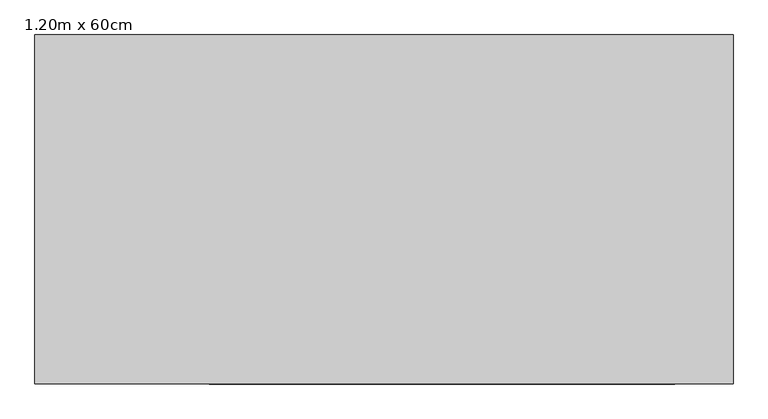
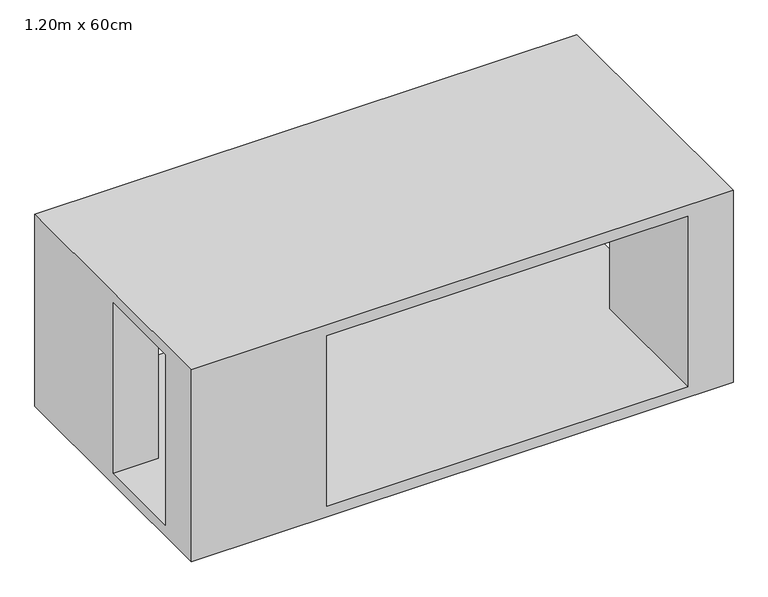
"""IFC4 building model written with IfcOpenShell, lengths in millimetres: furniture geometry, MESA DE CENTRO MODELO CARACAS : 1.20m x 60cm."""

from ifc_helpers import new_model, si_unit, origin, place, context, project, spatial, faceted_brep, source, transform, mapped, element, save


def furniture_1_20m_x_60cm_cab01552(model_context):
    return source(origin(), model_context, "Body", "Brep", [
        faceted_brep([(600.0, 0.0, 424.6), (600.0, 0.0, 25.4), (500.0, 0.0, 25.4), (500.0, 0.0, 424.6), (500.0, -300.0, 25.4), (500.0, -300.0, 424.6), (600.0, -300.0, 450.0), (-600.0, -300.0, 450.0), (-600.0, -300.0, 0.0), (600.0, -300.0, 0.0), (-300.0, -300.0, 25.4), (-300.0, -300.0, 424.6), (600.0, 300.0, 450.0), (600.0, 300.0, 0.0), (600.0, 200.0, 424.6), (600.0, 200.0, 25.4), (-300.0, -200.0, 424.6), (-300.0, -200.0, 25.4), (-600.0, -200.0, 25.4), (-600.0, -200.0, 424.6), (-600.0, 300.0, 450.0), (-600.0, 300.0, 0.0), (-600.0, 0.0, 25.4), (-600.0, 0.0, 424.6), (-500.0, 300.0, 424.6), (-500.0, 300.0, 25.4), (300.0, 300.0, 25.4), (300.0, 300.0, 424.6), (-500.0, 0.0, 25.4), (-500.0, 0.0, 424.6), (300.0, 200.0, 25.4), (300.0, 200.0, 424.6)], [[[0, 1, 2, 3]], [[3, 2, 4, 5]], [[6, 7, 8, 9], [5, 4, 10, 11]], [[12, 6, 9, 13], [1, 0, 14, 15]], [[16, 17, 18, 19]], [[8, 7, 20, 21], [19, 18, 22, 23]], [[17, 16, 11, 10]], [[21, 20, 12, 13], [24, 25, 26, 27]], [[23, 22, 28, 29]], [[25, 24, 29, 28]], [[27, 26, 30, 31]], [[31, 30, 15, 14]], [[10, 4, 2, 1, 15, 30, 26, 25, 28, 22, 18, 17]], [[13, 9, 8, 21]], [[12, 20, 7, 6]], [[5, 11, 16, 19, 23, 29, 24, 27, 31, 14, 0, 3]]]),
    ])


if __name__ == "__main__":
    model = new_model("IFC4")
    model_context = context("Model", 3, world=origin())
    ifc_project = project(units=[si_unit("LENGTHUNIT", "METRE", prefix="MILLI")], contexts=[model_context])
    site = spatial("IfcSite", under=ifc_project)
    building = spatial("IfcBuilding", under=site)
    placement = place(None, origin())
    furniture_1_20m_x_60cm_shape = furniture_1_20m_x_60cm_cab01552(model_context)
    element("IfcFurniture", 1, ObjectType="MESA DE CENTRO MODELO CARACAS : 1.20m x 60cm", at=placement, inside=building, context=model_context, shape_type="MappedRepresentation", body=[
        mapped(furniture_1_20m_x_60cm_shape, transform((0.0, 0.0, 0.0), x_axis=(1.0, 0.0, 0.0), y_axis=(0.0, 1.0, 0.0), z_axis=(0.0, 0.0, 1.0))),
    ])
    save(model, "model.ifc")
